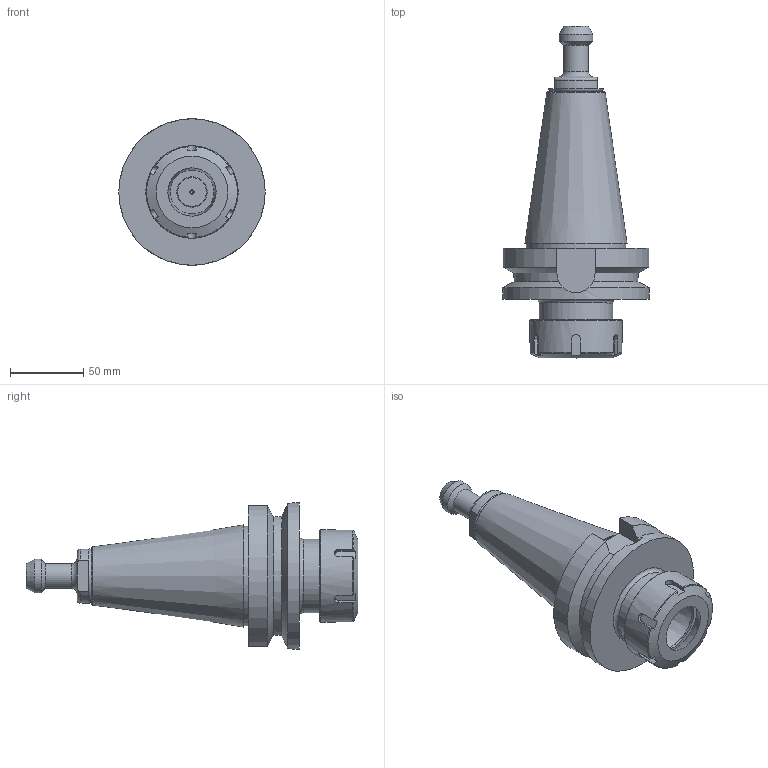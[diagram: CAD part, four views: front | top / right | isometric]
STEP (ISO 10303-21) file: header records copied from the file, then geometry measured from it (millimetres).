
FILE_DESCRIPTION(/* description */ (''),/* implementation_level */ '2;1');
FILE_NAME(/* name */ 'Z:\Проектный отдел\Макс\На сайт\BT50-ER40-80\BT50-ER40-80.stp',/* time_stamp */ '2024-01-25T19:55:57+03:00',/* author */ ('User'),/* organization */ (''),/* preprocessor_version */ 'ST-DEVELOPER v18',/* originating_system */ 'Autodesk Inventor 2020',/* authorisation */ '');
FILE_SCHEMA (('AUTOMOTIVE_DESIGN { 1 0 10303 214 3 1 1 }'));
Length unit declared in the file: millimetre
Products named in the file (4): BT50-ER40-80; BT50-ER40-80_1; ER40; Штуцер
Assembly tree (3 placements, depth 2):
  BT50-ER40-80
    BT50-ER40-80_1
    ER40
    Штуцер
Bounding box: 100 x 226.7 x 100 mm (x, y, z)
Volume: 516901.3 mm3; surface area: 85956.7 mm2
Topology: 3 solids, 3 shells, 115 faces, 313 edges, 216 vertices
Faces by surface type: plane 48, cylinder 32, cone 29, torus 6
Full cylindrical faces by diameter (mm): 2 x2, 17 x1, 20 x1, 20.752 x1, 23 x1, 23.7 x1, 25 x2, 27 x1, 30 x1, 32 x1, 40 x1, 50 x2, 63 x1, 68 x1, 100 x1
Entity records: 4077 total; most frequent: CARTESIAN_POINT 916, DIRECTION 651, ORIENTED_EDGE 622, EDGE_CURVE 311, AXIS2_PLACEMENT_3D 274, VERTEX_POINT 216, CIRCLE 152, EDGE_LOOP 133
